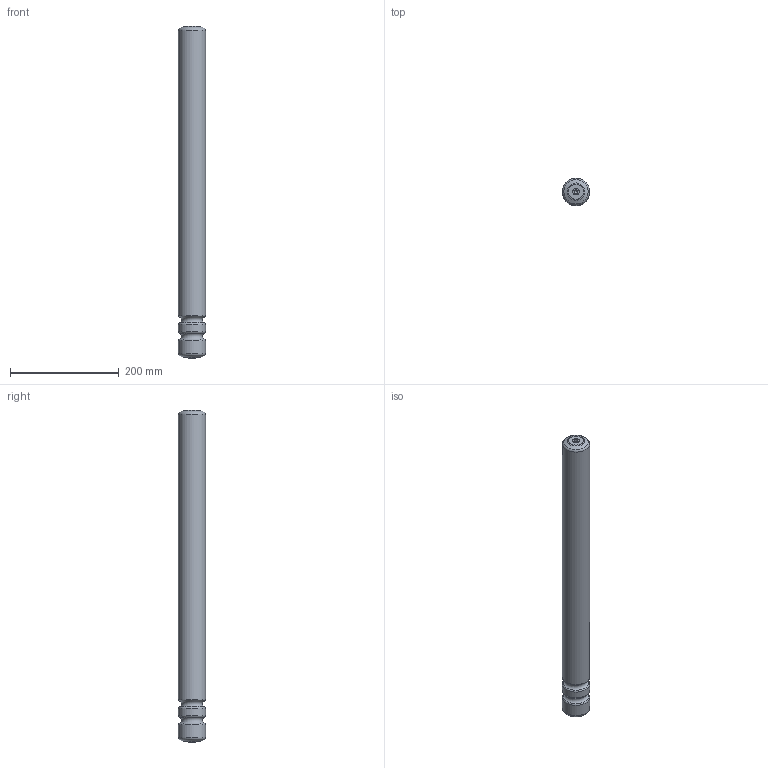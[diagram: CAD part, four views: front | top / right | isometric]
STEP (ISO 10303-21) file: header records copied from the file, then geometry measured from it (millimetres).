
FILE_DESCRIPTION(/* description */ ('Roller 2xgroove Ø50z1,5 galvanized'),/* implementation_level */ '2;1');
FILE_NAME(/* name */ 'RO9200500610.stp',/* time_stamp */ '2024-03-13T16:19:06+01:00',/* author */ ('rdegreef'),/* organization */ ('BCK Holland b.v.'),/* preprocessor_version */ 'ST-DEVELOPER v19.2',/* originating_system */ 'Autodesk Inventor 2023',/* authorisation */ '');
FILE_SCHEMA (('AUTOMOTIVE_DESIGN { 1 0 10303 214 3 1 1 }'));
Length unit declared in the file: millimetre
Products named in the file (1): RO9200500610
Bounding box: 50 x 50 x 610 mm (x, y, z)
Volume: 1170856.4 mm3; surface area: 99477.3 mm2
Topology: 1 solids, 1 shells, 25 faces, 54 edges, 33 vertices
Faces by surface type: torus 10, cylinder 7, cone 4, plane 4
Full cylindrical faces by diameter (mm): 6.647 x2, 12 x2, 50 x3
Entity records: 782 total; most frequent: DIRECTION 145, CARTESIAN_POINT 111, ORIENTED_EDGE 104, AXIS2_PLACEMENT_3D 67, EDGE_CURVE 52, CIRCLE 41, VERTEX_POINT 33, EDGE_LOOP 29
